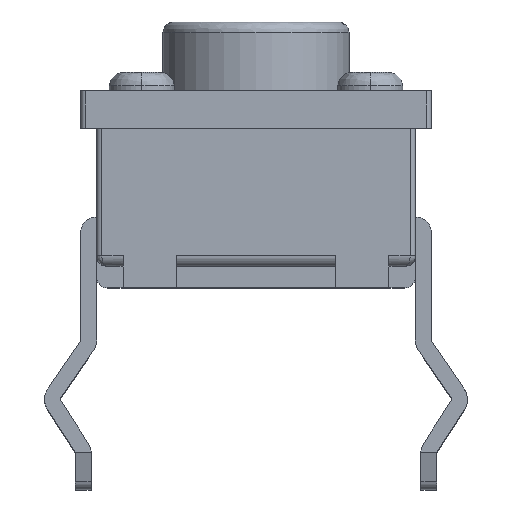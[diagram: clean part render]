
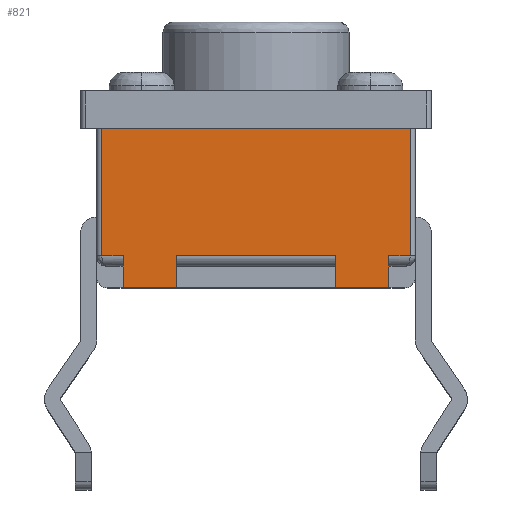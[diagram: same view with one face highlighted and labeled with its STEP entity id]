
A CAD part, top view. The second image highlights one B-rep face of the part: STEP entity #821.
In plain terms, the highlighted planar face has unit normal (0, 0, 1).
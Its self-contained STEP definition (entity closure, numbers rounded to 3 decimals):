
#362 = EDGE_CURVE ( 'NONE', #12309, #376, #11022, .T. ) ;
#376 = VERTEX_POINT ( 'NONE', #11027 ) ;
#387 = EDGE_CURVE ( 'NONE', #12246, #398, #11077, .T. ) ;
#398 = VERTEX_POINT ( 'NONE', #11113 ) ;
#507 = EDGE_CURVE ( 'NONE', #11962, #845, #6784, .T. ) ;
#515 = EDGE_CURVE ( 'NONE', #845, #726, #6733, .T. ) ;
#544 = EDGE_CURVE ( 'NONE', #838, #376, #6870, .T. ) ;
#577 = EDGE_CURVE ( 'NONE', #11298, #398, #6938, .T. ) ;
#588 = EDGE_CURVE ( 'NONE', #611, #838, #6922, .T. ) ;
#611 = VERTEX_POINT ( 'NONE', #6960 ) ;
#726 = VERTEX_POINT ( 'NONE', #7508 ) ;
#796 = ORIENTED_EDGE ( 'NONE', *, *, #12300, .T. ) ;
#799 = ORIENTED_EDGE ( 'NONE', *, *, #12314, .T. ) ;
#800 = EDGE_CURVE ( 'NONE', #726, #611, #7694, .T. ) ;
#801 = ORIENTED_EDGE ( 'NONE', *, *, #507, .F. ) ;
#802 = ORIENTED_EDGE ( 'NONE', *, *, #387, .T. ) ;
#803 = ORIENTED_EDGE ( 'NONE', *, *, #544, .F. ) ;
#806 = ORIENTED_EDGE ( 'NONE', *, *, #11293, .T. ) ;
#809 = ORIENTED_EDGE ( 'NONE', *, *, #362, .T. ) ;
#811 = ORIENTED_EDGE ( 'NONE', *, *, #588, .F. ) ;
#814 = EDGE_LOOP ( 'NONE', ( #825, #819, #801, #817, #796, #802, #824, #806, #799, #809, #803, #811 ) ) ;
#817 = ORIENTED_EDGE ( 'NONE', *, *, #11307, .T. ) ;
#819 = ORIENTED_EDGE ( 'NONE', *, *, #515, .F. ) ;
#821 = ADVANCED_FACE ( 'NONE', ( #7697 ), #7736, .F. ) ;
#824 = ORIENTED_EDGE ( 'NONE', *, *, #577, .F. ) ;
#825 = ORIENTED_EDGE ( 'NONE', *, *, #800, .F. ) ;
#838 = VERTEX_POINT ( 'NONE', #7766 ) ;
#845 = VERTEX_POINT ( 'NONE', #7823 ) ;
#4178 = LINE ( 'NONE', #4180, #4179 ) ;
#4179 = VECTOR ( 'NONE', #4229, 1000. ) ;
#4180 = CARTESIAN_POINT ( 'NONE',  ( 1.5, 0.4, 3. ) ) ;
#4220 = CARTESIAN_POINT ( 'NONE',  ( 1.5, 0.6, 3. ) ) ;
#4229 = DIRECTION ( 'NONE',  ( 0., -1., 0. ) ) ;
#4244 = DIRECTION ( 'NONE',  ( 0., -1., 0. ) ) ;
#4245 = VECTOR ( 'NONE', #4244, 1000. ) ;
#4246 = CARTESIAN_POINT ( 'NONE',  ( -2.5, 0.4, 3. ) ) ;
#4251 = LINE ( 'NONE', #4246, #4245 ) ;
#5122 = CARTESIAN_POINT ( 'NONE',  ( -2.5, 0.6, 3. ) ) ;
#6046 = CARTESIAN_POINT ( 'NONE',  ( -2.5, 0., 3. ) ) ;
#6066 = CARTESIAN_POINT ( 'NONE',  ( 1.5, 0., 3. ) ) ;
#6073 = CARTESIAN_POINT ( 'NONE',  ( -1.5, 0., 3. ) ) ;
#6237 = LINE ( 'NONE', #6246, #6320 ) ;
#6242 = CARTESIAN_POINT ( 'NONE',  ( 2.5, 0., 3. ) ) ;
#6246 = CARTESIAN_POINT ( 'NONE',  ( 0., 0., 3. ) ) ;
#6259 = DIRECTION ( 'NONE',  ( 1., 0., 0. ) ) ;
#6260 = VECTOR ( 'NONE', #6259, 1000. ) ;
#6261 = CARTESIAN_POINT ( 'NONE',  ( 0., 0., 3. ) ) ;
#6262 = LINE ( 'NONE', #6261, #6260 ) ;
#6319 = DIRECTION ( 'NONE',  ( 1., 0., 0. ) ) ;
#6320 = VECTOR ( 'NONE', #6319, 1000. ) ;
#6732 = CARTESIAN_POINT ( 'NONE',  ( -2.9, 3.3, 3. ) ) ;
#6733 = LINE ( 'NONE', #6732, #6818 ) ;
#6784 = LINE ( 'NONE', #6820, #6816 ) ;
#6815 = DIRECTION ( 'NONE',  ( -1., 0., 0. ) ) ;
#6816 = VECTOR ( 'NONE', #6815, 1000. ) ;
#6817 = DIRECTION ( 'NONE',  ( 0., 1., 0. ) ) ;
#6818 = VECTOR ( 'NONE', #6817, 1000. ) ;
#6820 = CARTESIAN_POINT ( 'NONE',  ( 0., 0.6, 3. ) ) ;
#6862 = DIRECTION ( 'NONE',  ( -1., 0., 0. ) ) ;
#6863 = VECTOR ( 'NONE', #6862, 1000. ) ;
#6869 = CARTESIAN_POINT ( 'NONE',  ( 0., 0.6, 3. ) ) ;
#6870 = LINE ( 'NONE', #6869, #6863 ) ;
#6917 = DIRECTION ( 'NONE',  ( 0., -1., 0. ) ) ;
#6918 = VECTOR ( 'NONE', #6917, 1000. ) ;
#6921 = CARTESIAN_POINT ( 'NONE',  ( 2.9, 3.3, 3. ) ) ;
#6922 = LINE ( 'NONE', #6921, #6918 ) ;
#6933 = DIRECTION ( 'NONE',  ( -1., 0., 0. ) ) ;
#6934 = VECTOR ( 'NONE', #6933, 1000. ) ;
#6937 = CARTESIAN_POINT ( 'NONE',  ( 0., 0.6, 3. ) ) ;
#6938 = LINE ( 'NONE', #6937, #6934 ) ;
#6960 = CARTESIAN_POINT ( 'NONE',  ( 2.9, 3.2, 3. ) ) ;
#7508 = CARTESIAN_POINT ( 'NONE',  ( -2.9, 3.2, 3. ) ) ;
#7674 = VECTOR ( 'NONE', #7698, 1000. ) ;
#7694 = LINE ( 'NONE', #7743, #7674 ) ;
#7697 = FACE_OUTER_BOUND ( 'NONE', #814, .T. ) ;
#7698 = DIRECTION ( 'NONE',  ( 1., 0., 0. ) ) ;
#7736 = PLANE ( 'NONE',  #7765 ) ;
#7743 = CARTESIAN_POINT ( 'NONE',  ( 0., 3.2, 3. ) ) ;
#7762 = DIRECTION ( 'NONE',  ( -1., 0., 0. ) ) ;
#7763 = DIRECTION ( 'NONE',  ( 0., 0., -1. ) ) ;
#7764 = CARTESIAN_POINT ( 'NONE',  ( 0., 3.3, 3. ) ) ;
#7765 = AXIS2_PLACEMENT_3D ( 'NONE', #7764, #7763, #7762 ) ;
#7766 = CARTESIAN_POINT ( 'NONE',  ( 2.9, 0.6, 3. ) ) ;
#7823 = CARTESIAN_POINT ( 'NONE',  ( -2.9, 0.6, 3. ) ) ;
#11019 = DIRECTION ( 'NONE',  ( 0., 1., 0. ) ) ;
#11020 = VECTOR ( 'NONE', #11019, 1000. ) ;
#11021 = CARTESIAN_POINT ( 'NONE',  ( 2.5, 0.4, 3. ) ) ;
#11022 = LINE ( 'NONE', #11021, #11020 ) ;
#11027 = CARTESIAN_POINT ( 'NONE',  ( 2.5, 0.6, 3. ) ) ;
#11074 = DIRECTION ( 'NONE',  ( 0., 1., 0. ) ) ;
#11075 = VECTOR ( 'NONE', #11074, 1000. ) ;
#11076 = CARTESIAN_POINT ( 'NONE',  ( -1.5, 0.4, 3. ) ) ;
#11077 = LINE ( 'NONE', #11076, #11075 ) ;
#11113 = CARTESIAN_POINT ( 'NONE',  ( -1.5, 0.6, 3. ) ) ;
#11293 = EDGE_CURVE ( 'NONE', #11298, #12248, #4178, .T. ) ;
#11298 = VERTEX_POINT ( 'NONE', #4220 ) ;
#11307 = EDGE_CURVE ( 'NONE', #11962, #12238, #4251, .T. ) ;
#11962 = VERTEX_POINT ( 'NONE', #5122 ) ;
#12238 = VERTEX_POINT ( 'NONE', #6046 ) ;
#12246 = VERTEX_POINT ( 'NONE', #6073 ) ;
#12248 = VERTEX_POINT ( 'NONE', #6066 ) ;
#12300 = EDGE_CURVE ( 'NONE', #12238, #12246, #6262, .T. ) ;
#12309 = VERTEX_POINT ( 'NONE', #6242 ) ;
#12314 = EDGE_CURVE ( 'NONE', #12248, #12309, #6237, .T. ) ;
